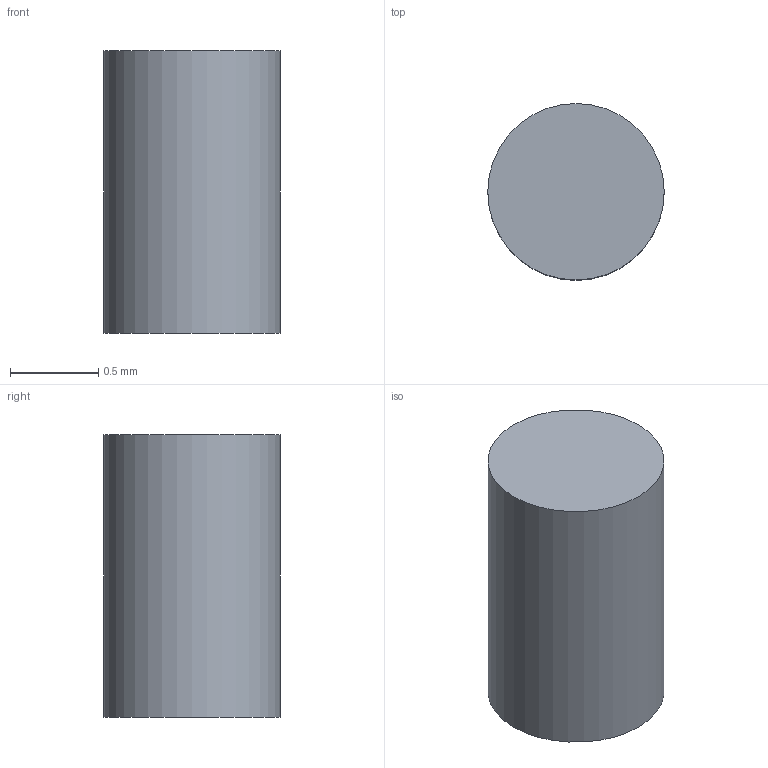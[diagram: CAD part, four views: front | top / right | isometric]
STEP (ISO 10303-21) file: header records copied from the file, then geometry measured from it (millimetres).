
FILE_DESCRIPTION(/* description */ ('STEP AP242 Edition 2','CAx-IF Rec.Pracs.---Representation and Presentation of Product Manufacturing Information (PMI)---4.0---2014-10-13','CAx-IF Rec.Pracs.---3D Tessellated Geometry---0.4---2014-09-14','2;1','CAx-IF Rec.Pracs.---User Defined Attributes---1.5---2016-08-15'),/* implementation_level */ '2;1');
FILE_NAME(/* name */ 'Drone Layout - Surface 336',/* time_stamp */ '2026-10-04T22:22:56Z',/* author */ (''),/* organization */ (''),/* preprocessor_version */ 'ST-DEVELOPER v20',/* originating_system */ 'ONSHAPE BY PTC INC, 1.221',/* authorisation */ ' ');
FILE_SCHEMA (('AP242_MANAGED_MODEL_BASED_3D_ENGINEERING_MIM_LF { 1 0 10303 442 3 1 4 }'));
Length unit declared in the file: metre
Products named in the file (1): VL53L0X:1__Unknown
Bounding box: 1 x 1 x 1.6 mm (x, y, z)
Volume: 1.3 mm3; surface area: 6.6 mm2
Topology: 1 solids, 1 shells, 3 faces, 3 edges, 2 vertices
Faces by surface type: plane 2, cylinder 1
Full cylindrical faces by diameter (mm): 1 x1
Entity records: 72 total; most frequent: DIRECTION 13, CARTESIAN_POINT 9, ORIENTED_EDGE 6, AXIS2_PLACEMENT_3D 6, EDGE_CURVE 3, EDGE_LOOP 3, FACE_BOUND 3, ADVANCED_FACE 3
